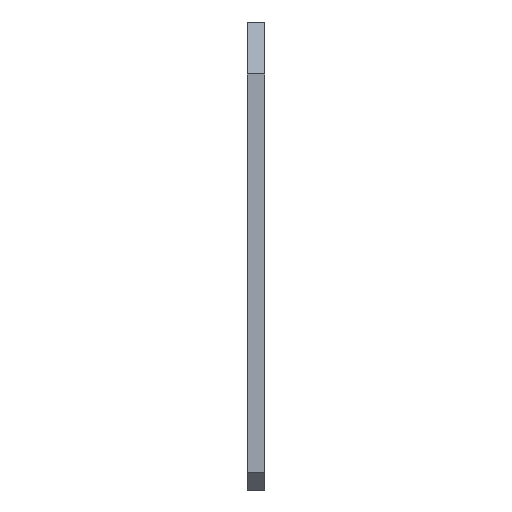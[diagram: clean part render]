
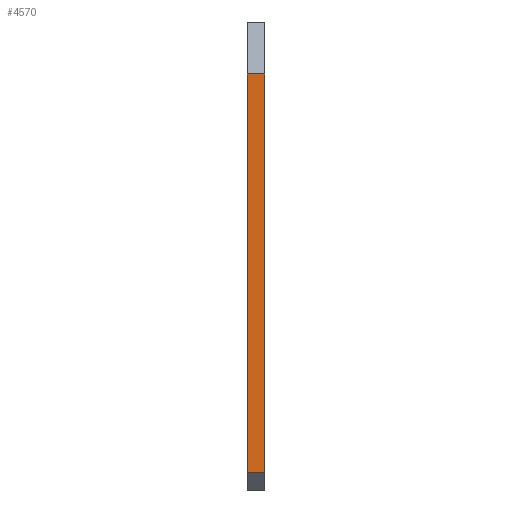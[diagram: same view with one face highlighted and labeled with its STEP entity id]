
A CAD part, left-side view. The second image highlights one B-rep face of the part: STEP entity #4570.
In plain terms, the highlighted planar face has unit normal (-1, 0, 0).
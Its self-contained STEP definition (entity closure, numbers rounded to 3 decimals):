
#465=FACE_OUTER_BOUND('',#941,.T.);
#941=EDGE_LOOP('',(#3514,#3515,#3516,#3517));
#1464=LINE('',#6687,#1750);
#1506=LINE('',#7080,#1792);
#1563=LINE('',#7497,#1849);
#1564=LINE('',#7498,#1850);
#1750=VECTOR('',#5319,1000.);
#1792=VECTOR('',#5671,1000.);
#1849=VECTOR('',#6068,1000.);
#1850=VECTOR('',#6069,1000.);
#2036=VERTEX_POINT('',#6685);
#2037=VERTEX_POINT('',#6686);
#2232=VERTEX_POINT('',#7077);
#2233=VERTEX_POINT('',#7079);
#2448=EDGE_CURVE('',#2036,#2037,#1464,.T.);
#2644=EDGE_CURVE('',#2233,#2232,#1506,.T.);
#2855=EDGE_CURVE('',#2232,#2037,#1563,.T.);
#2856=EDGE_CURVE('',#2036,#2233,#1564,.T.);
#3514=ORIENTED_EDGE('',*,*,#2644,.T.);
#3515=ORIENTED_EDGE('',*,*,#2855,.T.);
#3516=ORIENTED_EDGE('',*,*,#2448,.F.);
#3517=ORIENTED_EDGE('',*,*,#2856,.T.);
#4308=PLANE('',#5100);
#4570=ADVANCED_FACE('',(#465),#4308,.F.);
#5100=AXIS2_PLACEMENT_3D('',#7496,#6066,#6067);
#5319=DIRECTION('',(0.,0.,-1.));
#5671=DIRECTION('',(0.,0.,-1.));
#6066=DIRECTION('center_axis',(1.,0.,0.));
#6067=DIRECTION('ref_axis',(0.,0.,-1.));
#6068=DIRECTION('',(0.,-1.,0.));
#6069=DIRECTION('',(0.,1.,0.));
#6685=CARTESIAN_POINT('',(-275.,-2.5,10.));
#6686=CARTESIAN_POINT('',(-275.,-2.5,-105.));
#6687=CARTESIAN_POINT('',(-275.,-2.5,25.));
#7077=CARTESIAN_POINT('',(-275.,2.5,-105.));
#7079=CARTESIAN_POINT('',(-275.,2.5,10.));
#7080=CARTESIAN_POINT('',(-275.,2.5,25.));
#7496=CARTESIAN_POINT('Origin',(-275.,-2.5,25.));
#7497=CARTESIAN_POINT('',(-275.,-2.5,-105.));
#7498=CARTESIAN_POINT('',(-275.,-2.5,10.));
